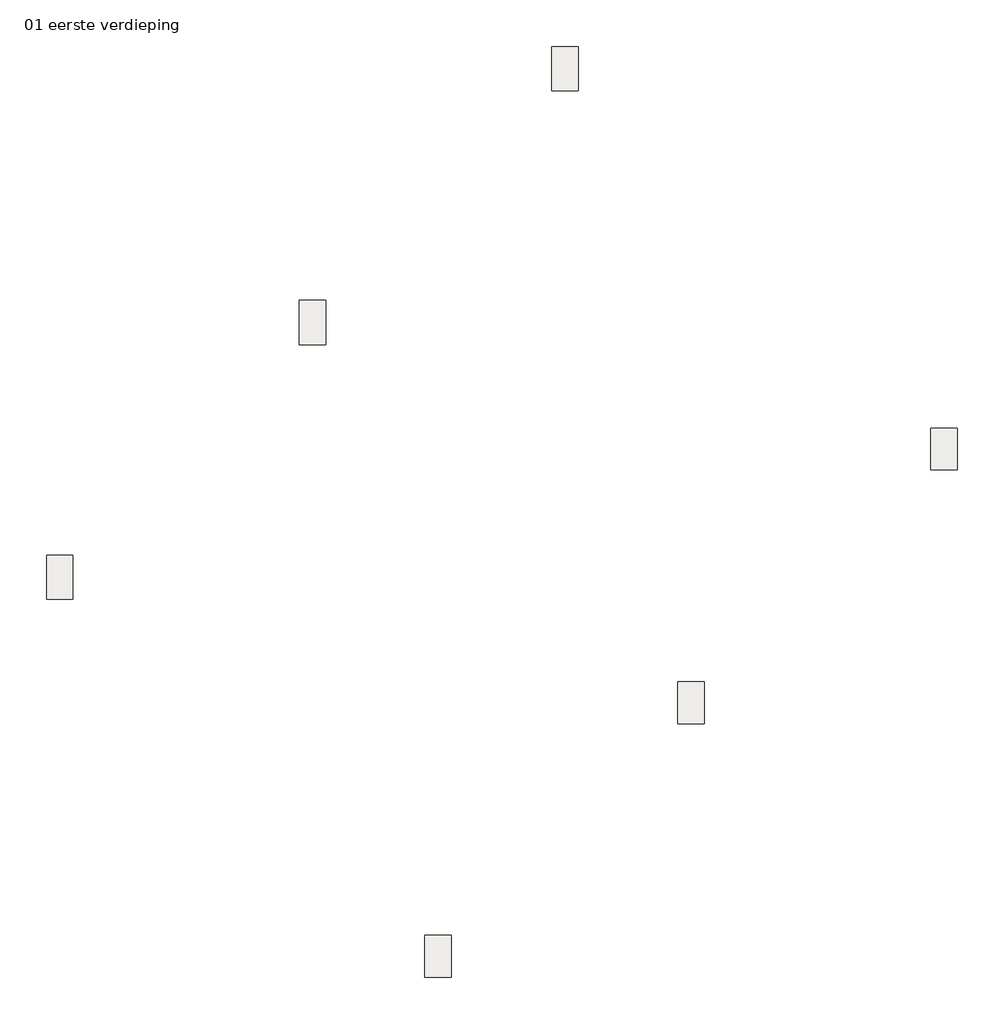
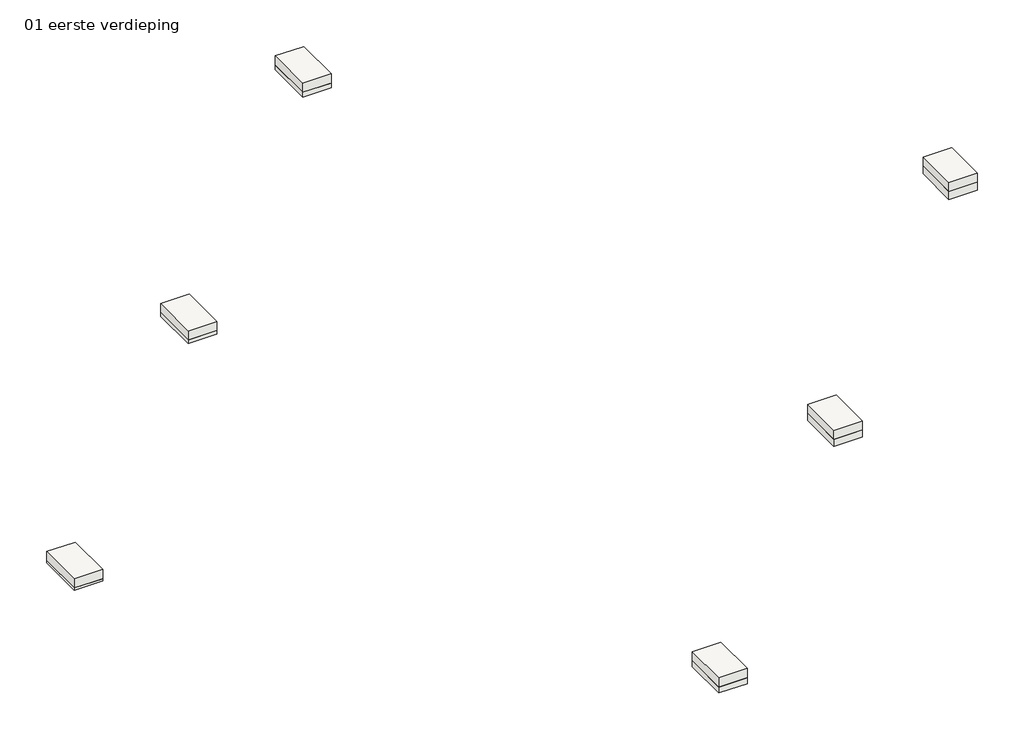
# One storey: 6 coverings, 6 slabs.
"""IFC4 building model written with IfcOpenShell, lengths in millimetres."""

from ifc_helpers import new_model, si_unit, frame, origin, place, context, project, spatial, polyline, outline, extrude, element, save

model = new_model("IFC4")

# Units and contexts
model_context = context("Model", 3, world=origin())
ifc_project = project(units=[si_unit("LENGTHUNIT", "METRE", prefix="MILLI")], contexts=[model_context])

# Site, building, storey
site = spatial("IfcSite", under=ifc_project)
building = spatial("IfcBuilding", under=site)
storey = spatial("IfcBuildingStorey", under=building, Name="01 eerste verdieping", Elevation=985.0)

# Coverings
placement = place(None, origin())
element("IfcCovering", 1, ObjectType="NLRS_45_CEI_Heraklith Herafoam 50x985x590mm", at=placement, inside=storey, context=model_context, shape_type="SweptSolid", body=[
    extrude(outline(polyline([(590.0, 1535.0), (0.0, 1535.0), (0.0, 2520.0), (590.0, 2520.0), (590.0, 1535.0)])), frame((0.0, 0.0, 935.0), z_axis=(0.0, 0.0, 1.0), x_axis=(1.0, 0.0, 0.0)), (0.0, 0.0, 1.0), 50.0),
])
element("IfcCovering", 2, ObjectType="NLRS_45_CEI_Heraklith Herafoam 80x985x590mm", at=placement, inside=storey, context=model_context, shape_type="SweptSolid", body=[
    extrude(outline(polyline([(6231.8542495, 7221.8542495), (5641.8542495, 7221.8542495), (5641.8542495, 8206.8542495), (6231.8542495, 8206.8542495), (6231.8542495, 7221.8542495)])), frame((0.0, 0.0, 905.0), z_axis=(0.0, 0.0, 1.0), x_axis=(1.0, 0.0, 0.0)), (0.0, 0.0, 1.0), 80.0),
])
element("IfcCovering", 3, ObjectType="NLRS_45_CEI_Heraklith Herafoam 105x985x590mm", at=placement, inside=storey, context=model_context, shape_type="SweptSolid", body=[
    extrude(outline(polyline([(11876.208499, 12891.208499), (11286.208499, 12891.208499), (11286.208499, 13876.208499), (11876.208499, 13876.208499), (11876.208499, 12891.208499)])), frame((0.0, 0.0, 880.0), z_axis=(0.0, 0.0, 1.0), x_axis=(1.0, 0.0, 0.0)), (0.0, 0.0, 1.0), 105.0),
])
element("IfcCovering", 4, ObjectType="NLRS_45_CEI_Heraklith Herafoam 130x985x590mm", at=placement, inside=storey, context=model_context, shape_type="SweptSolid", body=[
    extrude(outline(polyline([(9035.2813742, -6910.2813742), (8445.2813742, -6910.2813742), (8445.2813742, -5965.2813742), (9035.2813742, -5965.2813742), (9035.2813742, -6910.2813742)])), frame((0.0, 0.0, 855.0), z_axis=(0.0, 0.0, 1.0), x_axis=(1.0, 0.0, 0.0)), (0.0, 0.0, 1.0), 130.0),
])
element("IfcCovering", 5, ObjectType="NLRS_45_CEI_Heraklith Herafoam 150x985x590mm", at=placement, inside=storey, context=model_context, shape_type="SweptSolid", body=[
    extrude(outline(polyline([(14687.1356237, -1243.4271247), (14097.1356237, -1243.4271247), (14097.1356237, -308.4271247), (14687.1356237, -308.4271247), (14687.1356237, -1243.4271247)])), frame((0.0, 0.0, 835.0), z_axis=(0.0, 0.0, 1.0), x_axis=(1.0, 0.0, 0.0)), (0.0, 0.0, 1.0), 150.0),
])
element("IfcCovering", 6, ObjectType="NLRS_45_CEI_Heraklith Herafoam 170x985x590mm", at=placement, inside=storey, context=model_context, shape_type="SweptSolid", body=[
    extrude(outline(polyline([(20338.9898732, 4423.4271247), (19748.9898732, 4423.4271247), (19748.9898732, 5348.4271247), (20338.9898732, 5348.4271247), (20338.9898732, 4423.4271247)])), frame((0.0, 0.0, 815.0), z_axis=(0.0, 0.0, 1.0), x_axis=(1.0, 0.0, 0.0)), (0.0, 0.0, 1.0), 170.0),
])

# Slabs
element("IfcSlab", 7, ObjectType="Generic 200mm", at=placement, inside=storey, context=model_context, shape_type="SweptSolid", body=[
    extrude(outline(polyline([(590.0, 2520.0), (590.0, 1535.0), (0.0, 1535.0), (0.0, 2520.0), (590.0, 2520.0)])), frame((0.0, 0.0, 985.0), z_axis=(0.0, 0.0, 1.0), x_axis=(1.0, 0.0, 0.0)), (0.0, 0.0, 1.0), 200.0),
])
element("IfcSlab", 8, ObjectType="Generic 200mm", at=placement, inside=storey, context=model_context, shape_type="SweptSolid", body=[
    extrude(outline(polyline([(6231.8542495, 8206.8542495), (6231.8542495, 7221.8542495), (5641.8542495, 7221.8542495), (5641.8542495, 8206.8542495), (6231.8542495, 8206.8542495)])), frame((0.0, 0.0, 985.0), z_axis=(0.0, 0.0, 1.0), x_axis=(1.0, 0.0, 0.0)), (0.0, 0.0, 1.0), 200.0),
])
element("IfcSlab", 9, ObjectType="Generic 200mm", at=placement, inside=storey, context=model_context, shape_type="SweptSolid", body=[
    extrude(outline(polyline([(11876.208499, 13876.208499), (11876.208499, 12891.208499), (11286.208499, 12891.208499), (11286.208499, 13876.208499), (11876.208499, 13876.208499)])), frame((0.0, 0.0, 985.0), z_axis=(0.0, 0.0, 1.0), x_axis=(1.0, 0.0, 0.0)), (0.0, 0.0, 1.0), 200.0),
])
element("IfcSlab", 10, ObjectType="Generic 200mm", at=placement, inside=storey, context=model_context, shape_type="SweptSolid", body=[
    extrude(outline(polyline([(20338.9898732, 5348.4271247), (20338.9898732, 4423.4271247), (19748.9898732, 4423.4271247), (19748.9898732, 5348.4271247), (20338.9898732, 5348.4271247)])), frame((0.0, 0.0, 985.0), z_axis=(0.0, 0.0, 1.0), x_axis=(1.0, 0.0, 0.0)), (0.0, 0.0, 1.0), 200.0),
])
element("IfcSlab", 11, ObjectType="Generic 200mm", at=placement, inside=storey, context=model_context, shape_type="SweptSolid", body=[
    extrude(outline(polyline([(14687.1356237, -308.4271247), (14687.1356237, -1243.4271247), (14097.1356237, -1243.4271247), (14097.1356237, -308.4271247), (14687.1356237, -308.4271247)])), frame((0.0, 0.0, 985.0), z_axis=(0.0, 0.0, 1.0), x_axis=(1.0, 0.0, 0.0)), (0.0, 0.0, 1.0), 200.0),
])
element("IfcSlab", 12, ObjectType="Generic 200mm", at=placement, inside=storey, context=model_context, shape_type="SweptSolid", body=[
    extrude(outline(polyline([(9035.2813742, -5965.2813742), (9035.2813742, -6910.2813742), (8445.2813742, -6910.2813742), (8445.2813742, -5965.2813742), (9035.2813742, -5965.2813742)])), frame((0.0, 0.0, 985.0), z_axis=(0.0, 0.0, 1.0), x_axis=(1.0, 0.0, 0.0)), (0.0, 0.0, 1.0), 200.0),
])

save(model, "model.ifc")
